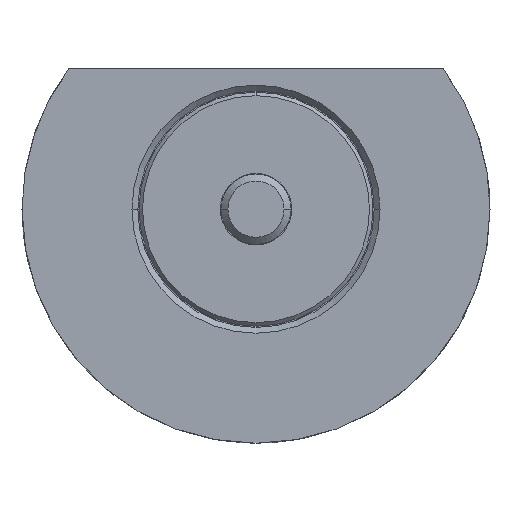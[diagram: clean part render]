
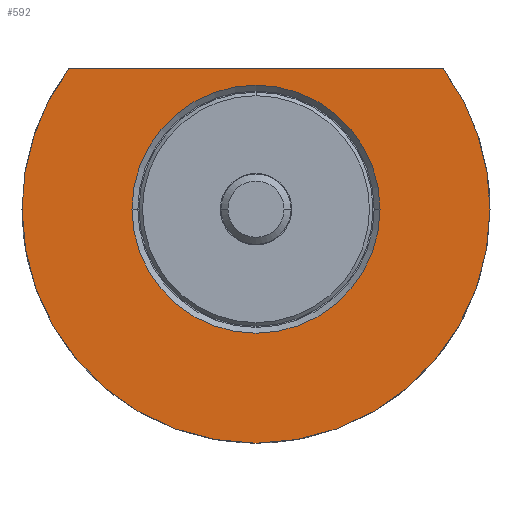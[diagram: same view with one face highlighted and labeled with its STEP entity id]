
A CAD part, front view. The second image highlights one B-rep face of the part: STEP entity #592.
In plain terms, the highlighted planar face has unit normal (0, -1, 0).
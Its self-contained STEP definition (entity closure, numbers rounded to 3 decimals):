
#4 = VECTOR ( 'NONE', #2101, 1000. ) ;
#16 = CARTESIAN_POINT ( 'NONE',  ( 20., -10., 0. ) ) ;
#55 = DIRECTION ( 'NONE',  ( -1., 0., 0. ) ) ;
#100 = CARTESIAN_POINT ( 'NONE',  ( -10.6, -10., 11.999 ) ) ;
#106 = DIRECTION ( 'NONE',  ( -1., 0., 0. ) ) ;
#118 = CARTESIAN_POINT ( 'NONE',  ( 0., -10., 0. ) ) ;
#162 = CARTESIAN_POINT ( 'NONE',  ( 16.001, -10., 11.999 ) ) ;
#190 = CARTESIAN_POINT ( 'NONE',  ( 0., -10., 0. ) ) ;
#217 = CARTESIAN_POINT ( 'NONE',  ( 0., -10., 0. ) ) ;
#242 = DIRECTION ( 'NONE',  ( 1., 0., 0. ) ) ;
#322 = EDGE_CURVE ( 'NONE', #831, #2216, #1451, .T. ) ;
#369 = CARTESIAN_POINT ( 'NONE',  ( -20., -10., 0. ) ) ;
#397 = ORIENTED_EDGE ( 'NONE', *, *, #2117, .T. ) ;
#426 = FACE_BOUND ( 'NONE', #2312, .T. ) ;
#442 = FACE_OUTER_BOUND ( 'NONE', #1178, .T. ) ;
#558 = ORIENTED_EDGE ( 'NONE', *, *, #634, .F. ) ;
#592 = ADVANCED_FACE ( 'NONE', ( #426, #442 ), #2095, .T. ) ;
#634 = EDGE_CURVE ( 'NONE', #864, #2027, #1838, .T. ) ;
#679 = DIRECTION ( 'NONE',  ( 0., 1., 0. ) ) ;
#737 = CIRCLE ( 'NONE', #1373, 10.6 ) ;
#784 = CARTESIAN_POINT ( 'NONE',  ( 10.6, -10., 0. ) ) ;
#800 = CARTESIAN_POINT ( 'NONE',  ( 0., -10., 0. ) ) ;
#805 = AXIS2_PLACEMENT_3D ( 'NONE', #190, #2649, #1595 ) ;
#831 = VERTEX_POINT ( 'NONE', #1190 ) ;
#857 = DIRECTION ( 'NONE',  ( -1., 0., 0. ) ) ;
#864 = VERTEX_POINT ( 'NONE', #162 ) ;
#945 = AXIS2_PLACEMENT_3D ( 'NONE', #800, #1868, #1643 ) ;
#1138 = EDGE_CURVE ( 'NONE', #2027, #2610, #1750, .T. ) ;
#1178 = EDGE_LOOP ( 'NONE', ( #558, #1846, #2106, #1948 ) ) ;
#1190 = CARTESIAN_POINT ( 'NONE',  ( -10.6, -10., 0. ) ) ;
#1264 = CARTESIAN_POINT ( 'NONE',  ( 0., -10., 0. ) ) ;
#1275 = EDGE_CURVE ( 'NONE', #864, #2402, #2304, .T. ) ;
#1278 = AXIS2_PLACEMENT_3D ( 'NONE', #118, #679, #106 ) ;
#1283 = AXIS2_PLACEMENT_3D ( 'NONE', #2298, #1455, #242 ) ;
#1288 = CIRCLE ( 'NONE', #945, 20. ) ;
#1373 = AXIS2_PLACEMENT_3D ( 'NONE', #217, #2528, #55 ) ;
#1451 = CIRCLE ( 'NONE', #805, 10.6 ) ;
#1455 = DIRECTION ( 'NONE',  ( 0., -1., 0. ) ) ;
#1555 = EDGE_CURVE ( 'NONE', #2610, #2402, #1288, .T. ) ;
#1595 = DIRECTION ( 'NONE',  ( -1., 0., 0. ) ) ;
#1643 = DIRECTION ( 'NONE',  ( -1., 0., 0. ) ) ;
#1750 = CIRCLE ( 'NONE', #2436, 20. ) ;
#1838 = CIRCLE ( 'NONE', #1278, 20. ) ;
#1846 = ORIENTED_EDGE ( 'NONE', *, *, #1275, .T. ) ;
#1868 = DIRECTION ( 'NONE',  ( 0., 1., 0. ) ) ;
#1948 = ORIENTED_EDGE ( 'NONE', *, *, #1138, .F. ) ;
#2027 = VERTEX_POINT ( 'NONE', #16 ) ;
#2095 = PLANE ( 'NONE',  #1283 ) ;
#2101 = DIRECTION ( 'NONE',  ( -1., 0., 0. ) ) ;
#2106 = ORIENTED_EDGE ( 'NONE', *, *, #1555, .F. ) ;
#2117 = EDGE_CURVE ( 'NONE', #2216, #831, #737, .T. ) ;
#2216 = VERTEX_POINT ( 'NONE', #784 ) ;
#2264 = DIRECTION ( 'NONE',  ( 0., 1., 0. ) ) ;
#2289 = ORIENTED_EDGE ( 'NONE', *, *, #322, .T. ) ;
#2298 = CARTESIAN_POINT ( 'NONE',  ( -10.6, -10., 0. ) ) ;
#2304 = LINE ( 'NONE', #100, #4 ) ;
#2312 = EDGE_LOOP ( 'NONE', ( #397, #2289 ) ) ;
#2402 = VERTEX_POINT ( 'NONE', #2522 ) ;
#2436 = AXIS2_PLACEMENT_3D ( 'NONE', #1264, #2264, #857 ) ;
#2522 = CARTESIAN_POINT ( 'NONE',  ( -16.001, -10., 11.999 ) ) ;
#2528 = DIRECTION ( 'NONE',  ( 0., 1., 0. ) ) ;
#2610 = VERTEX_POINT ( 'NONE', #369 ) ;
#2649 = DIRECTION ( 'NONE',  ( 0., 1., 0. ) ) ;
